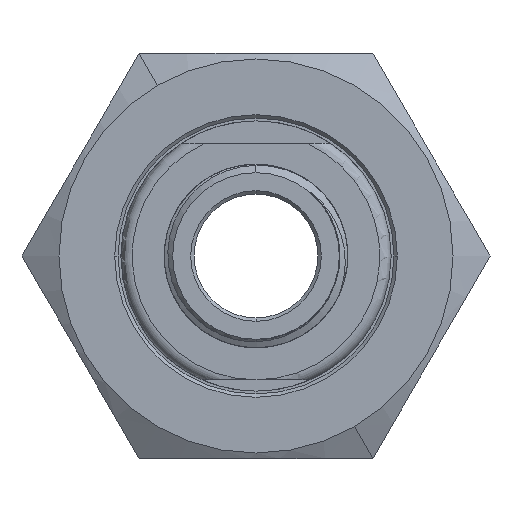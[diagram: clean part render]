
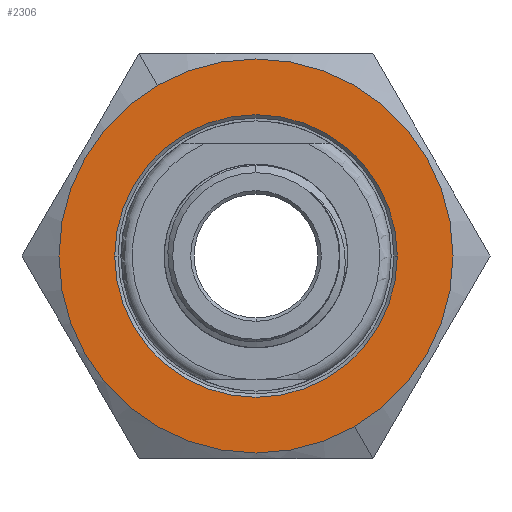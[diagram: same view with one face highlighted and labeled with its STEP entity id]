
A CAD part, front view. The second image highlights one B-rep face of the part: STEP entity #2306.
In plain terms, the highlighted planar face has unit normal (0, -1, 0).
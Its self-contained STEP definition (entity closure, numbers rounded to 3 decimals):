
#13=CARTESIAN_POINT('',(0.,0.,0.));
#14=DIRECTION('',(0.,-1.,0.));
#15=DIRECTION('',(-0.5,0.,0.866));
#16=AXIS2_PLACEMENT_3D('',#13,#14,#15);
#18=CARTESIAN_POINT('',(0.,0.,0.));
#19=DIRECTION('',(0.,-1.,0.));
#20=DIRECTION('',(0.5,0.,-0.866));
#21=AXIS2_PLACEMENT_3D('',#18,#19,#20);
#23=CARTESIAN_POINT('',(0.,0.,0.));
#24=DIRECTION('',(0.,-1.,0.));
#25=DIRECTION('',(1.,0.,0.));
#26=AXIS2_PLACEMENT_3D('',#23,#24,#25);
#33=CARTESIAN_POINT('',(0.,0.,0.));
#34=DIRECTION('',(0.,-1.,0.));
#35=DIRECTION('',(-1.,0.,0.));
#36=AXIS2_PLACEMENT_3D('',#33,#34,#35);
#1915=CARTESIAN_POINT('',(-8.75,0.,15.155));
#1916=CARTESIAN_POINT('',(8.75,0.,-15.155));
#1917=VERTEX_POINT('',#1915);
#1918=VERTEX_POINT('',#1916);
#1935=CARTESIAN_POINT('',(12.55,0.,0.));
#1936=CARTESIAN_POINT('',(-12.55,0.,0.));
#1937=VERTEX_POINT('',#1935);
#1938=VERTEX_POINT('',#1936);
#2289=CARTESIAN_POINT('',(0.,0.,0.));
#2290=DIRECTION('',(0.,1.,0.));
#2291=DIRECTION('',(0.,0.,-1.));
#2292=AXIS2_PLACEMENT_3D('',#2289,#2290,#2291);
#2293=PLANE('',#2292);
#2295=ORIENTED_EDGE('',*,*,#2294,.F.);
#2297=ORIENTED_EDGE('',*,*,#2296,.F.);
#2298=EDGE_LOOP('',(#2295,#2297));
#2299=FACE_OUTER_BOUND('',#2298,.F.);
#2301=ORIENTED_EDGE('',*,*,#2300,.T.);
#2303=ORIENTED_EDGE('',*,*,#2302,.T.);
#2304=EDGE_LOOP('',(#2301,#2303));
#2305=FACE_BOUND('',#2304,.F.);
#2306=ADVANCED_FACE('',(#2299,#2305),#2293,.F.);
#17=CIRCLE('',#16,17.5);
#22=CIRCLE('',#21,17.5);
#27=CIRCLE('',#26,12.55);
#37=CIRCLE('',#36,12.55);
#2294=EDGE_CURVE('',#1917,#1918,#17,.T.);
#2296=EDGE_CURVE('',#1918,#1917,#22,.T.);
#2300=EDGE_CURVE('',#1937,#1938,#27,.T.);
#2302=EDGE_CURVE('',#1938,#1937,#37,.T.);
